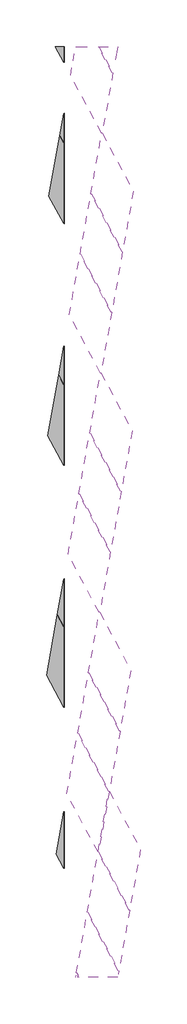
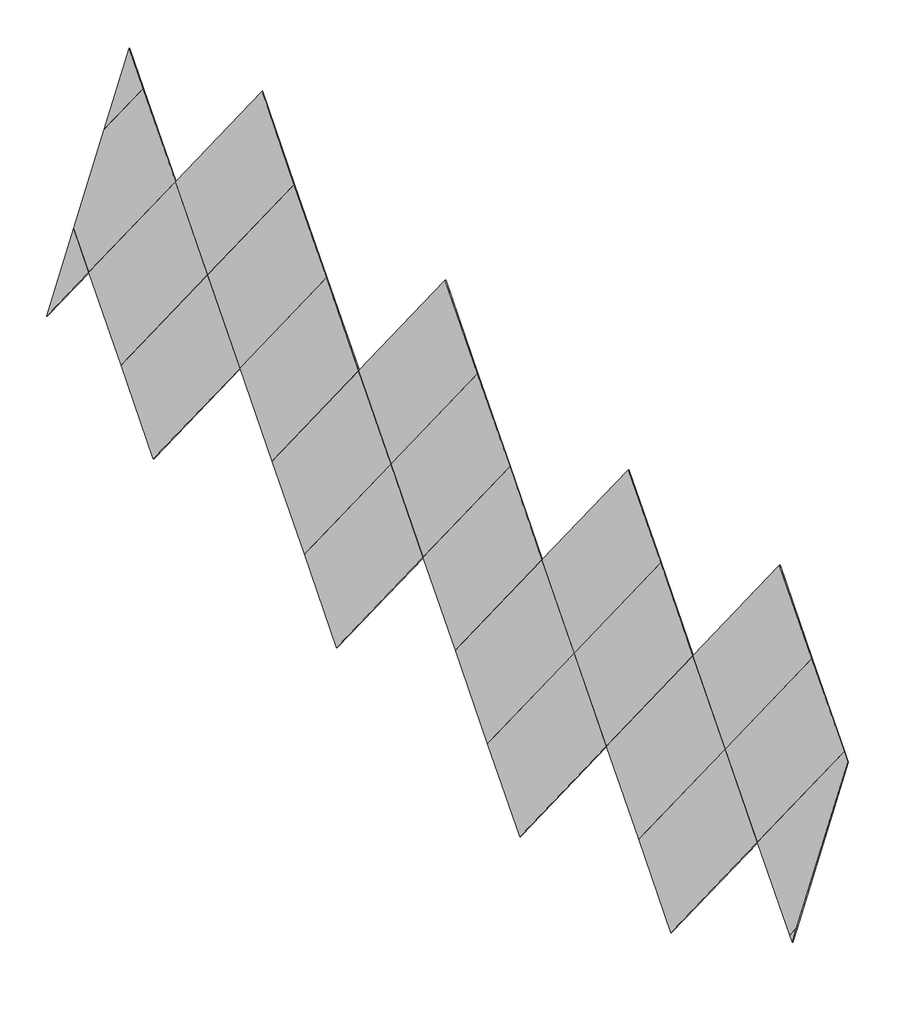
# One storey: 23 plates.
"""IFC4 building model written with IfcOpenShell, lengths in millimetres."""

from ifc_helpers import new_model, si_unit, origin, place, context, project, spatial, transform, mapped, element, save
from components import plate_969d1667, plate_6fdf89d2, plate_d0fd6e1e, plate_f1760178, plate_a04ca399, plate_0db2ef74

model = new_model("IFC4")

# Units and contexts
model_context = context("Model", 3, world=origin())
ifc_project = project(units=[si_unit("LENGTHUNIT", "METRE", prefix="MILLI")], contexts=[model_context])

# Site, building, storey
site = spatial("IfcSite", under=ifc_project)
building = spatial("IfcBuilding", under=site)
storey = spatial("IfcBuildingStorey", under=building, Name="樓層 2", Elevation=3500.0)

# Plates
placement = place(None, origin())
plate_shape = plate_969d1667(model_context)
element("IfcPlate", 1, ObjectType="系統嵌板 : 玻璃 1.0cm", at=placement, inside=storey, context=model_context, shape_type="MappedRepresentation", body=[
    mapped(plate_shape, transform((-10514.5440122, 7114.1189196, 6143.7646942), x_axis=(0.15450849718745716, 0.8660254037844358, 0.4755282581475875), y_axis=(0.9510565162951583, 0.0, -0.30901699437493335), z_axis=(-0.2676165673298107, 0.500000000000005, -0.823639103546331))),
])
element("IfcPlate", 2, ObjectType="系統嵌板 : 玻璃 1.0cm", at=placement, inside=storey, context=model_context, shape_type="MappedRepresentation", body=[
    mapped(plate_shape, transform((-10282.7812664, 8413.1570252, 6857.0570814), x_axis=(0.15450849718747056, 0.8660254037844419, 0.4755282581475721), y_axis=(0.9510565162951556, 0.0, -0.30901699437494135), z_axis=(-0.26761656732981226, 0.4999999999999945, -0.823639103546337))),
])
element("IfcPlate", 3, ObjectType="系統嵌板 : 玻璃 1.0cm", at=placement, inside=storey, context=model_context, shape_type="MappedRepresentation", body=[
    mapped(plate_shape, transform((-10540.7908312, 1967.0046025, 6062.9852914), x_axis=(0.1545084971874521, 0.8660254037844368, 0.4755282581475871), y_axis=(0.9510565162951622, 0.0, -0.30901699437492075), z_axis=(-0.26761656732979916, 0.5000000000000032, -0.823639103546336))),
])
element("IfcPlate", 4, ObjectType="系統嵌板 : 玻璃 1.0cm", at=placement, inside=storey, context=model_context, shape_type="MappedRepresentation", body=[
    mapped(plate_shape, transform((-10309.0280854, 3266.0427082, 6776.2776786), x_axis=(0.15450849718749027, 0.8660254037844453, 0.4755282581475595), y_axis=(0.9510565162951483, 0.0, -0.3090169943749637), z_axis=(-0.2676165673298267, 0.49999999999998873, -0.8236391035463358))),
])
element("IfcPlate", 5, ObjectType="系統嵌板 : 玻璃 1.0cm", at=placement, inside=storey, context=model_context, shape_type="MappedRepresentation", body=[
    mapped(plate_shape, transform((-10077.2653397, 4565.0808139, 7489.5700658), x_axis=(0.15450849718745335, 0.8660254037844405, 0.47552825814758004), y_axis=(0.9510565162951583, 0.0, -0.3090169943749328), z_axis=(-0.2676165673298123, 0.4999999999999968, -0.8236391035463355))),
])
element("IfcPlate", 6, ObjectType="系統嵌板 : 玻璃 1.0cm", at=placement, inside=storey, context=model_context, shape_type="MappedRepresentation", body=[
    mapped(plate_shape, transform((-9845.5025939, 5864.1189196, 8202.862453), x_axis=(0.15450849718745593, 0.8660254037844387, 0.47552825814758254), y_axis=(0.9510565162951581, 0.0, -0.3090169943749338), z_axis=(-0.267616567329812, 0.5, -0.8236391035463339))),
])
element("IfcPlate", 7, ObjectType="系統嵌板 : 玻璃 1.0cm", at=placement, inside=storey, context=model_context, shape_type="MappedRepresentation", body=[
    mapped(plate_shape, transform((-9613.7398481, 7163.1570252, 8916.1548403), x_axis=(0.15450849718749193, 0.8660254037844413, 0.4755282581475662), y_axis=(0.9510565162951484, 0.0, -0.30901699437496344), z_axis=(-0.26761656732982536, 0.4999999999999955, -0.823639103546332))),
])
element("IfcPlate", 8, ObjectType="系統嵌板 : 玻璃 1.0cm", at=placement, inside=storey, context=model_context, shape_type="MappedRepresentation", body=[
    mapped(plate_shape, transform((-10567.0376502, -3180.1097145, 5982.2058886), x_axis=(0.1545084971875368, 0.8660254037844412, 0.4755282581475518), y_axis=(0.9510565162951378, 0.0, -0.3090169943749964), z_axis=(-0.26761656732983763, 0.4999999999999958, -0.8236391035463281))),
])
element("IfcPlate", 9, ObjectType="系統嵌板 : 玻璃 1.0cm", at=placement, inside=storey, context=model_context, shape_type="MappedRepresentation", body=[
    mapped(plate_shape, transform((-10335.2749045, -1881.0716088, 6695.4982758), x_axis=(0.15450849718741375, 0.8660254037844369, 0.4755282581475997), y_axis=(0.9510565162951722, 0.0, -0.3090169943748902), z_axis=(-0.267616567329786, 0.5000000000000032, -0.8236391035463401))),
])
element("IfcPlate", 10, ObjectType="系統嵌板 : 玻璃 1.0cm", at=placement, inside=storey, context=model_context, shape_type="MappedRepresentation", body=[
    mapped(plate_shape, transform((-10103.5121587, -582.0335031, 7408.790663), x_axis=(0.15450849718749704, 0.8660254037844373, 0.4755282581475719), y_axis=(0.9510565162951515, 0.0, -0.3090169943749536), z_axis=(-0.26761656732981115, 0.5000000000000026, -0.8236391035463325))),
])
element("IfcPlate", 11, ObjectType="系統嵌板 : 玻璃 1.0cm", at=placement, inside=storey, context=model_context, shape_type="MappedRepresentation", body=[
    mapped(plate_shape, transform((-9871.7494129, 717.0046025, 8122.0830502), x_axis=(0.15450849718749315, 0.8660254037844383, 0.47552825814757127), y_axis=(0.9510565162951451, 0.0, -0.3090169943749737), z_axis=(-0.2676165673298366, 0.5000000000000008, -0.8236391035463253))),
])
element("IfcPlate", 12, ObjectType="系統嵌板 : 玻璃 1.0cm", at=placement, inside=storey, context=model_context, shape_type="MappedRepresentation", body=[
    mapped(plate_shape, transform((-9639.9866671, 2016.0427082, 8835.3754375), x_axis=(0.1545084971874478, 0.8660254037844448, 0.47552825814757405), y_axis=(0.9510565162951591, 0.0, -0.3090169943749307), z_axis=(-0.2676165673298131, 0.4999999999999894, -0.8236391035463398))),
])
element("IfcPlate", 13, ObjectType="系統嵌板 : 玻璃 1.0cm", at=placement, inside=storey, context=model_context, shape_type="MappedRepresentation", body=[
    mapped(plate_shape, transform((-10361.5217235, -7028.1859258, 6614.718873), x_axis=(0.154508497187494, 0.866025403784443, 0.4755282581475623), y_axis=(0.9510565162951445, 0.0, -0.3090169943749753), z_axis=(-0.26761656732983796, 0.4999999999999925, -0.82363910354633))),
])
element("IfcPlate", 14, ObjectType="系統嵌板 : 玻璃 1.0cm", at=placement, inside=storey, context=model_context, shape_type="MappedRepresentation", body=[
    mapped(plate_shape, transform((-10129.7589777, -5729.1478202, 7328.0112602), x_axis=(0.1545084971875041, 0.8660254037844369, 0.4755282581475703), y_axis=(0.9510565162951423, 0.0, -0.3090169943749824), z_axis=(-0.2676165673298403, 0.5000000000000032, -0.8236391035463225))),
])
element("IfcPlate", 15, ObjectType="系統嵌板 : 玻璃 1.0cm", at=placement, inside=storey, context=model_context, shape_type="MappedRepresentation", body=[
    mapped(plate_shape, transform((-9897.9962319, -4430.1097145, 8041.3036474), x_axis=(0.1545084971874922, 0.8660254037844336, 0.47552825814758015), y_axis=(0.9510565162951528, 0.0, -0.3090169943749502), z_axis=(-0.26761656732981, 0.5000000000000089, -0.8236391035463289))),
])
element("IfcPlate", 16, ObjectType="系統嵌板 : 玻璃 1.0cm", at=placement, inside=storey, context=model_context, shape_type="MappedRepresentation", body=[
    mapped(plate_shape, transform((-9666.2334861, -3131.0716088, 8754.5960347), x_axis=(0.15450849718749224, 0.8660254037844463, 0.4755282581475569), y_axis=(0.9510565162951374, 0.0, -0.3090169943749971), z_axis=(-0.2676165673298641, 0.49999999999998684, -0.8236391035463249))),
])
element("IfcPlate", 17, ObjectType="系統嵌板 : 玻璃 1.0cm", at=placement, inside=storey, context=model_context, shape_type="MappedRepresentation", body=[
    mapped(plate_shape, transform((-9692.4803051, -8278.1859258, 8673.8166319), x_axis=(0.15450849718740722, 0.8660254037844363, 0.47552825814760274), y_axis=(0.9510565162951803, 0.0, -0.3090169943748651), z_axis=(-0.26761656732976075, 0.5000000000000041, -0.8236391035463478))),
])
element("IfcPlate", 18, ObjectType="系統嵌板 : 玻璃 1.0cm", at=placement, inside=storey, context=model_context, shape_type="MappedRepresentation", body=[
    mapped(plate_shape, transform((-9460.7175594, -6979.1478202, 9387.1090191), x_axis=(0.154508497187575, 0.8660254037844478, 0.4755282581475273), y_axis=(0.9510565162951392, 0.0, -0.30901699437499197), z_axis=(-0.2676165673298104, 0.4999999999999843, -0.823639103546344))),
])
plate_2_shape = plate_6fdf89d2(model_context)
element("IfcPlate", 19, ObjectType="系統嵌板 : 玻璃 1.0cm", at=placement, inside=storey, context=model_context, shape_type="MappedRepresentation", body=[
    mapped(plate_2_shape, transform((-10781.3025167, 10618.9283912, 5322.7664366), x_axis=(0.15450849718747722, 0.8660254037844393, 0.47552825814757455), y_axis=(0.9510565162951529, 0.0, -0.3090169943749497), z_axis=(-0.2676165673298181, 0.49999999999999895, -0.8236391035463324))),
])
plate_3_shape = plate_d0fd6e1e(model_context)
element("IfcPlate", 20, ObjectType="系統嵌板 : 玻璃 1.0cm", at=placement, inside=storey, context=model_context, shape_type="MappedRepresentation", body=[
    mapped(plate_3_shape, transform((-10665.4211438, -9123.8574014, 5679.4126302), x_axis=(0.15450849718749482, 0.8660254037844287, 0.475528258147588), y_axis=(0.9510565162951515, 0.0, -0.30901699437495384), z_axis=(-0.26761656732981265, 0.5000000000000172, -0.8236391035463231))),
])
plate_4_shape = plate_f1760178(model_context)
element("IfcPlate", 21, ObjectType="系統嵌板 : 玻璃 1.0cm", at=placement, inside=storey, context=model_context, shape_type="MappedRepresentation", body=[
    mapped(plate_4_shape, transform((-9924.2430509, -9577.2240315, 7960.5242447), x_axis=(0.1545084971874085, 0.8660254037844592, 0.4755282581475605), y_axis=(0.951056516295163, 0.0, -0.3090169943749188), z_axis=(-0.2676165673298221, 0.49999999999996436, -0.8236391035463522))),
])
plate_5_shape = plate_a04ca399(model_context)
element("IfcPlate", 22, ObjectType="系統嵌板 : 玻璃 1.0cm", at=placement, inside=storey, context=model_context, shape_type="MappedRepresentation", body=[
    mapped(plate_5_shape, transform((-10051.0185206, 9712.1951309, 7570.3494686), x_axis=(0.15450849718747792, 0.866025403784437, 0.47552825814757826), y_axis=(0.9510565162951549, 0.0, -0.3090169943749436), z_axis=(-0.2676165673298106, 0.5000000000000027, -0.8236391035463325))),
])
plate_6_shape = plate_0db2ef74(model_context)
element("IfcPlate", 23, ObjectType="系統嵌板 : 玻璃 1.0cm", at=placement, inside=storey, context=model_context, shape_type="MappedRepresentation", body=[
    mapped(plate_6_shape, transform((-9884.8728224, 10643.447444, 8081.6933488), x_axis=(0.15450849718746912, 0.866025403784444, 0.47552825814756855), y_axis=(0.9510565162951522, 0.0, -0.30901699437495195), z_axis=(-0.2676165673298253, 0.4999999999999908, -0.8236391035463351))),
])

save(model, "model.ifc")
